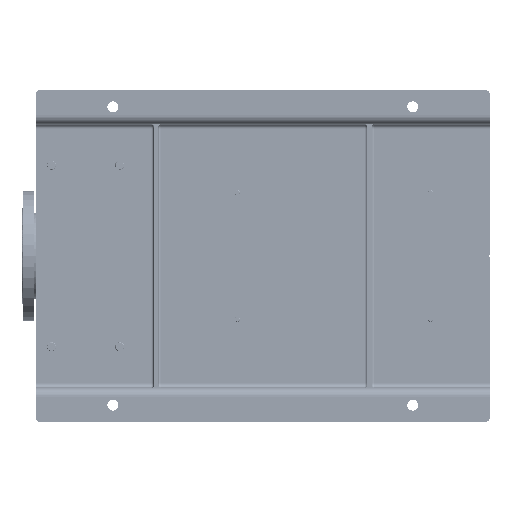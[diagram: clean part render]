
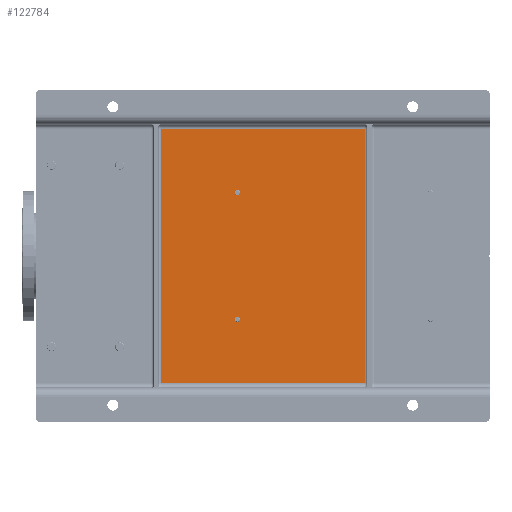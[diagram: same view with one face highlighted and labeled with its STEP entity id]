
A CAD part, front view. The second image highlights one B-rep face of the part: STEP entity #122784.
In plain terms, the highlighted planar face has unit normal (0, -1, 0).
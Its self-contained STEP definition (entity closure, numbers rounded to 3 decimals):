
#82 = CARTESIAN_POINT ( 'NONE',  ( 75., 90., -1000. ) ) ;
#3946 = VERTEX_POINT ( 'NONE', #96229 ) ;
#9837 = DIRECTION ( 'NONE',  ( -1., 0., 0. ) ) ;
#20667 = ORIENTED_EDGE ( 'NONE', *, *, #217931, .T. ) ;
#25634 = CIRCLE ( 'NONE', #85486, 6. ) ;
#31001 = EDGE_CURVE ( 'NONE', #85967, #201307, #213142, .T. ) ;
#37542 = VERTEX_POINT ( 'NONE', #230249 ) ;
#39419 = AXIS2_PLACEMENT_3D ( 'NONE', #82, #207768, #149018 ) ;
#41582 = VERTEX_POINT ( 'NONE', #56753 ) ;
#44923 = EDGE_CURVE ( 'NONE', #37542, #108349, #76538, .T. ) ;
#46935 = EDGE_CURVE ( 'NONE', #41582, #3946, #237141, .T. ) ;
#47925 = DIRECTION ( 'NONE',  ( 0., 0., -1. ) ) ;
#49179 = CARTESIAN_POINT ( 'NONE',  ( 85., 90., -730. ) ) ;
#52686 = FACE_OUTER_BOUND ( 'NONE', #52971, .T. ) ;
#52971 = EDGE_LOOP ( 'NONE', ( #158009, #132326, #232718, #115293 ) ) ;
#56753 = CARTESIAN_POINT ( 'NONE',  ( 231.5, 90., -444. ) ) ;
#57663 = EDGE_CURVE ( 'NONE', #201307, #85967, #25634, .T. ) ;
#72678 = PLANE ( 'NONE',  #39419 ) ;
#73105 = VECTOR ( 'NONE', #108700, 1000. ) ;
#76538 = LINE ( 'NONE', #95309, #232333 ) ;
#81409 = AXIS2_PLACEMENT_3D ( 'NONE', #184663, #164653, #163423 ) ;
#85486 = AXIS2_PLACEMENT_3D ( 'NONE', #202932, #149086, #169097 ) ;
#85967 = VERTEX_POINT ( 'NONE', #154233 ) ;
#87716 = EDGE_CURVE ( 'NONE', #108349, #126627, #221341, .T. ) ;
#89985 = ORIENTED_EDGE ( 'NONE', *, *, #57663, .T. ) ;
#94507 = VECTOR ( 'NONE', #9837, 1000. ) ;
#95309 = CARTESIAN_POINT ( 'NONE',  ( 75., 90., -725. ) ) ;
#96229 = CARTESIAN_POINT ( 'NONE',  ( 219.5, 90., -444. ) ) ;
#96523 = DIRECTION ( 'NONE',  ( 1., 0., 0. ) ) ;
#100648 = EDGE_LOOP ( 'NONE', ( #121747, #89985 ) ) ;
#104933 = CARTESIAN_POINT ( 'NONE',  ( 75., 90., -275. ) ) ;
#108349 = VERTEX_POINT ( 'NONE', #200239 ) ;
#108700 = DIRECTION ( 'NONE',  ( 0., 0., 1. ) ) ;
#108992 = FACE_BOUND ( 'NONE', #195450, .T. ) ;
#109994 = ORIENTED_EDGE ( 'NONE', *, *, #46935, .T. ) ;
#111524 = EDGE_CURVE ( 'NONE', #126627, #228132, #218788, .T. ) ;
#115293 = ORIENTED_EDGE ( 'NONE', *, *, #111524, .T. ) ;
#121747 = ORIENTED_EDGE ( 'NONE', *, *, #31001, .T. ) ;
#122784 = ADVANCED_FACE ( 'NONE', ( #108992, #150245, #52686 ), #72678, .T. ) ;
#126627 = VERTEX_POINT ( 'NONE', #152648 ) ;
#132326 = ORIENTED_EDGE ( 'NONE', *, *, #44923, .T. ) ;
#133630 = EDGE_CURVE ( 'NONE', #228132, #37542, #241818, .T. ) ;
#137200 = CARTESIAN_POINT ( 'NONE',  ( 225.5, 90., -444. ) ) ;
#139653 = DIRECTION ( 'NONE',  ( 1., 0., 0. ) ) ;
#148641 = CIRCLE ( 'NONE', #244537, 6. ) ;
#149018 = DIRECTION ( 'NONE',  ( 0., 0., -1. ) ) ;
#149086 = DIRECTION ( 'NONE',  ( 0., 1., 0. ) ) ;
#150245 = FACE_BOUND ( 'NONE', #100648, .T. ) ;
#152648 = CARTESIAN_POINT ( 'NONE',  ( 645., 90., -275. ) ) ;
#154233 = CARTESIAN_POINT ( 'NONE',  ( 498.5, 90., -444. ) ) ;
#157649 = VECTOR ( 'NONE', #47925, 1000. ) ;
#158009 = ORIENTED_EDGE ( 'NONE', *, *, #133630, .T. ) ;
#163423 = DIRECTION ( 'NONE',  ( 1., 0., 0. ) ) ;
#164653 = DIRECTION ( 'NONE',  ( 0., 1., 0. ) ) ;
#169097 = DIRECTION ( 'NONE',  ( -1., 0., 0. ) ) ;
#178550 = CARTESIAN_POINT ( 'NONE',  ( 510.5, 90., -444. ) ) ;
#179677 = DIRECTION ( 'NONE',  ( 0., 1., 0. ) ) ;
#181169 = AXIS2_PLACEMENT_3D ( 'NONE', #222250, #238570, #204714 ) ;
#184663 = CARTESIAN_POINT ( 'NONE',  ( 225.5, 90., -444. ) ) ;
#195450 = EDGE_LOOP ( 'NONE', ( #20667, #109994 ) ) ;
#200239 = CARTESIAN_POINT ( 'NONE',  ( 645., 90., -725. ) ) ;
#201307 = VERTEX_POINT ( 'NONE', #178550 ) ;
#202932 = CARTESIAN_POINT ( 'NONE',  ( 504.5, 90., -444. ) ) ;
#204714 = DIRECTION ( 'NONE',  ( -1., 0., 0. ) ) ;
#207768 = DIRECTION ( 'NONE',  ( 0., -1., 0. ) ) ;
#213142 = CIRCLE ( 'NONE', #181169, 6. ) ;
#217931 = EDGE_CURVE ( 'NONE', #3946, #41582, #148641, .T. ) ;
#218788 = LINE ( 'NONE', #104933, #94507 ) ;
#221341 = LINE ( 'NONE', #240096, #73105 ) ;
#222250 = CARTESIAN_POINT ( 'NONE',  ( 504.5, 90., -444. ) ) ;
#228132 = VERTEX_POINT ( 'NONE', #236487 ) ;
#230249 = CARTESIAN_POINT ( 'NONE',  ( 85., 90., -725. ) ) ;
#232333 = VECTOR ( 'NONE', #96523, 1000. ) ;
#232718 = ORIENTED_EDGE ( 'NONE', *, *, #87716, .T. ) ;
#236487 = CARTESIAN_POINT ( 'NONE',  ( 85., 90., -275. ) ) ;
#237141 = CIRCLE ( 'NONE', #81409, 6. ) ;
#238570 = DIRECTION ( 'NONE',  ( 0., 1., 0. ) ) ;
#240096 = CARTESIAN_POINT ( 'NONE',  ( 645., 90., -270. ) ) ;
#241818 = LINE ( 'NONE', #49179, #157649 ) ;
#244537 = AXIS2_PLACEMENT_3D ( 'NONE', #137200, #179677, #139653 ) ;
